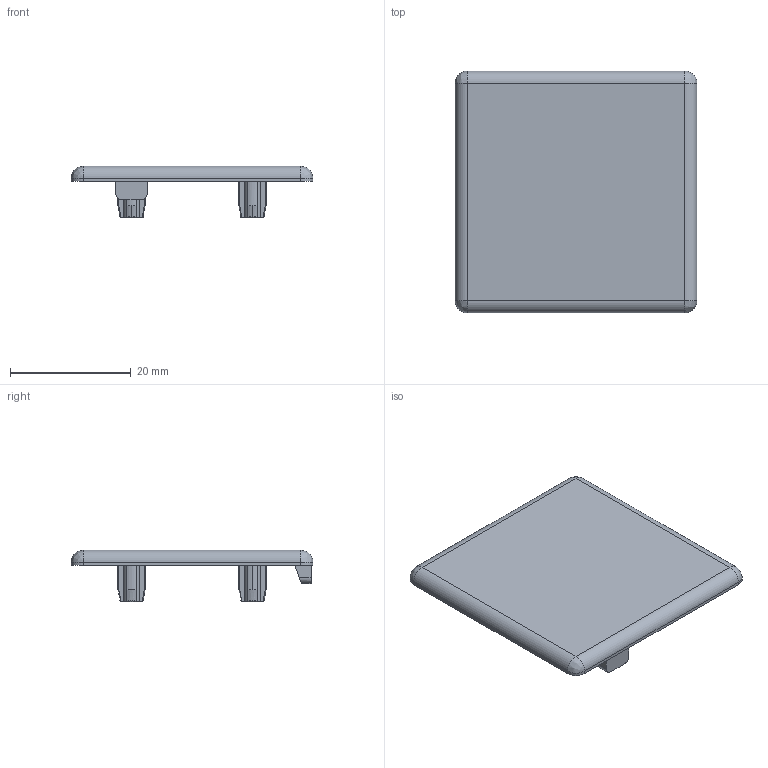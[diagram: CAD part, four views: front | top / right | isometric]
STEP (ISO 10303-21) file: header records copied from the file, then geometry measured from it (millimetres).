
FILE_DESCRIPTION (( 'STEP AP203' ), '1' );
FILE_NAME ('0105AK4040.STEP', '2024-03-06T13:32:56', ( 'Windows-Benutzer' ), ( '' ), 'SwSTEP 2.0', 'SolidWorks 2023', '' );
FILE_SCHEMA (( 'CONFIG_CONTROL_DESIGN' ));
Length unit declared in the file: millimetre
Products named in the file (1): 0105AK4040
Bounding box: 40 x 40 x 8.5 mm (x, y, z)
Volume: 3064.4 mm3; surface area: 4056.1 mm2
Topology: 1 solids, 1 shells, 158 faces, 443 edges, 288 vertices
Faces by surface type: plane 60, cylinder 54, bspline 24, cone 20
Entity records: 5538 total; most frequent: CARTESIAN_POINT 1568, ORIENTED_EDGE 878, DIRECTION 761, EDGE_CURVE 439, VERTEX_POINT 288, AXIS2_PLACEMENT_3D 273, VECTOR 215, LINE 215
